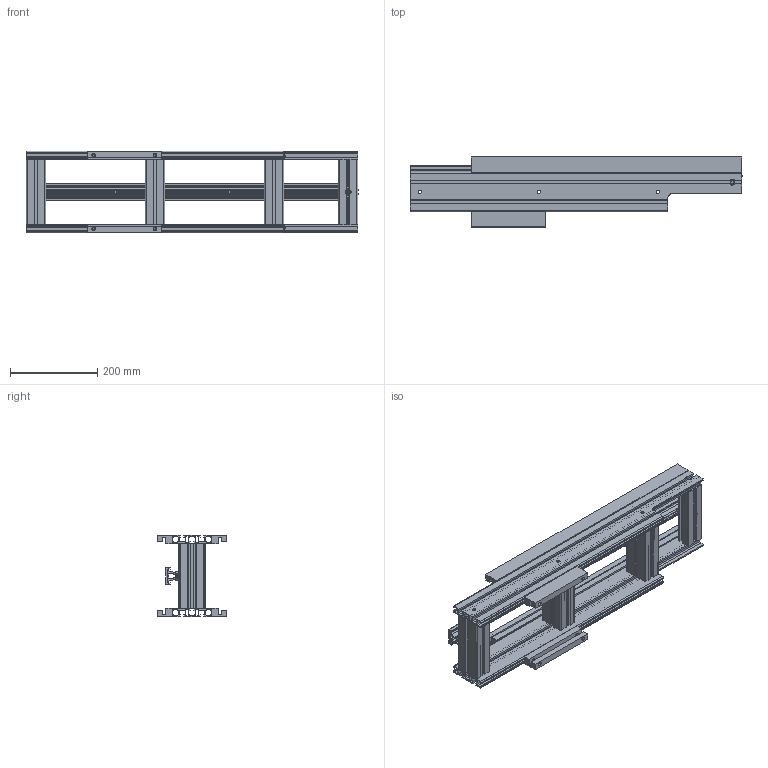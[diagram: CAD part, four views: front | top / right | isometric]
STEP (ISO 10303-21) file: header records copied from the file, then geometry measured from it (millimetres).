
FILE_DESCRIPTION (( 'STEP AP203' ), '1' );
FILE_NAME ('3000.152.101.STEP', '2018-03-09T16:27:25', ( '' ), ( '' ), 'SwSTEP 2.0', 'SolidWorks 2016', '' );
FILE_SCHEMA (( 'CONFIG_CONTROL_DESIGN' ));
Length unit declared in the file: millimetre
Products named in the file (1): 3000.152.101
Bounding box: 760 x 160 x 187 mm (x, y, z)
Volume: 2891560 mm3; surface area: 1764304.2 mm2
Topology: 17 solids, 17 shells, 1007 faces, 2897 edges, 1930 vertices
Faces by surface type: plane 614, cylinder 383, cone 10
Entity records: 33798 total; most frequent: CARTESIAN_POINT 6342, ORIENTED_EDGE 5794, DIRECTION 5645, EDGE_CURVE 2897, VECTOR 2075, LINE 2075, VERTEX_POINT 1930, AXIS2_PLACEMENT_3D 1785
